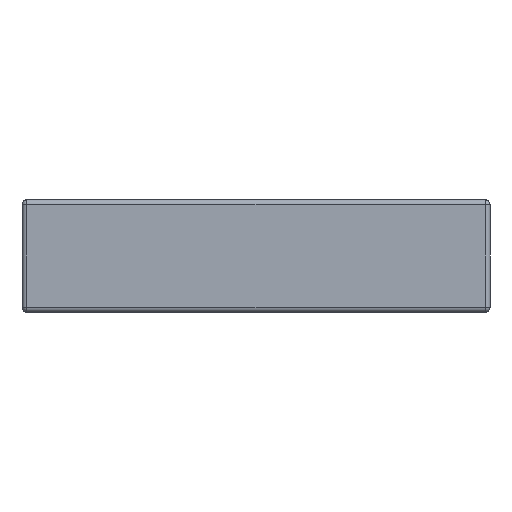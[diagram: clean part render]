
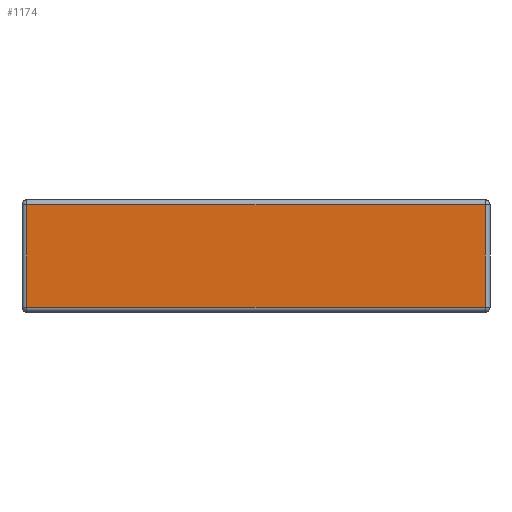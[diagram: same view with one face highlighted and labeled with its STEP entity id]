
A CAD part, front view. The second image highlights one B-rep face of the part: STEP entity #1174.
In plain terms, the highlighted planar face has unit normal (0, -1, 0).
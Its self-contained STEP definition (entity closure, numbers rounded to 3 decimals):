
#87 = VECTOR ( 'NONE', #9311, 1000. ) ;
#233 = LINE ( 'NONE', #10437, #87 ) ;
#1131 = VECTOR ( 'NONE', #5404, 1000. ) ;
#1174 = ADVANCED_FACE ( 'NONE', ( #8009 ), #4678, .F. ) ;
#1759 = DIRECTION ( 'NONE',  ( -1., 0., 0. ) ) ;
#2083 = EDGE_CURVE ( 'NONE', #6908, #6681, #7203, .T. ) ;
#2181 = CARTESIAN_POINT ( 'NONE',  ( -24.5, -82.5, 11.5 ) ) ;
#2941 = CARTESIAN_POINT ( 'NONE',  ( -25., -82.5, 11.5 ) ) ;
#3043 = EDGE_CURVE ( 'NONE', #8548, #6076, #10008, .T. ) ;
#4113 = EDGE_CURVE ( 'NONE', #6076, #6908, #233, .T. ) ;
#4143 = LINE ( 'NONE', #2941, #7641 ) ;
#4678 = PLANE ( 'NONE',  #5980 ) ;
#4862 = CARTESIAN_POINT ( 'NONE',  ( -24.5, -82.5, 0.5 ) ) ;
#4891 = DIRECTION ( 'NONE',  ( 0., 0., 1. ) ) ;
#5372 = VECTOR ( 'NONE', #4891, 1000. ) ;
#5404 = DIRECTION ( 'NONE',  ( 0., 0., -1. ) ) ;
#5980 = AXIS2_PLACEMENT_3D ( 'NONE', #11289, #10166, #9020 ) ;
#6063 = CARTESIAN_POINT ( 'NONE',  ( 24.5, -82.5, 12. ) ) ;
#6070 = ORIENTED_EDGE ( 'NONE', *, *, #10001, .T. ) ;
#6076 = VERTEX_POINT ( 'NONE', #4862 ) ;
#6466 = ORIENTED_EDGE ( 'NONE', *, *, #3043, .T. ) ;
#6576 = CARTESIAN_POINT ( 'NONE',  ( -24.5, -82.5, 12. ) ) ;
#6612 = EDGE_LOOP ( 'NONE', ( #6070, #6466, #8089, #10861 ) ) ;
#6681 = VERTEX_POINT ( 'NONE', #8923 ) ;
#6908 = VERTEX_POINT ( 'NONE', #9651 ) ;
#7203 = LINE ( 'NONE', #6063, #5372 ) ;
#7641 = VECTOR ( 'NONE', #1759, 1000. ) ;
#8009 = FACE_OUTER_BOUND ( 'NONE', #6612, .T. ) ;
#8089 = ORIENTED_EDGE ( 'NONE', *, *, #4113, .T. ) ;
#8548 = VERTEX_POINT ( 'NONE', #2181 ) ;
#8923 = CARTESIAN_POINT ( 'NONE',  ( 24.5, -82.5, 11.5 ) ) ;
#9020 = DIRECTION ( 'NONE',  ( 0., 0., 1. ) ) ;
#9311 = DIRECTION ( 'NONE',  ( 1., 0., 0. ) ) ;
#9651 = CARTESIAN_POINT ( 'NONE',  ( 24.5, -82.5, 0.5 ) ) ;
#10001 = EDGE_CURVE ( 'NONE', #6681, #8548, #4143, .T. ) ;
#10008 = LINE ( 'NONE', #6576, #1131 ) ;
#10166 = DIRECTION ( 'NONE',  ( 0., 1., 0. ) ) ;
#10437 = CARTESIAN_POINT ( 'NONE',  ( 25., -82.5, 0.5 ) ) ;
#10861 = ORIENTED_EDGE ( 'NONE', *, *, #2083, .T. ) ;
#11289 = CARTESIAN_POINT ( 'NONE',  ( 25., -82.5, 12. ) ) ;
